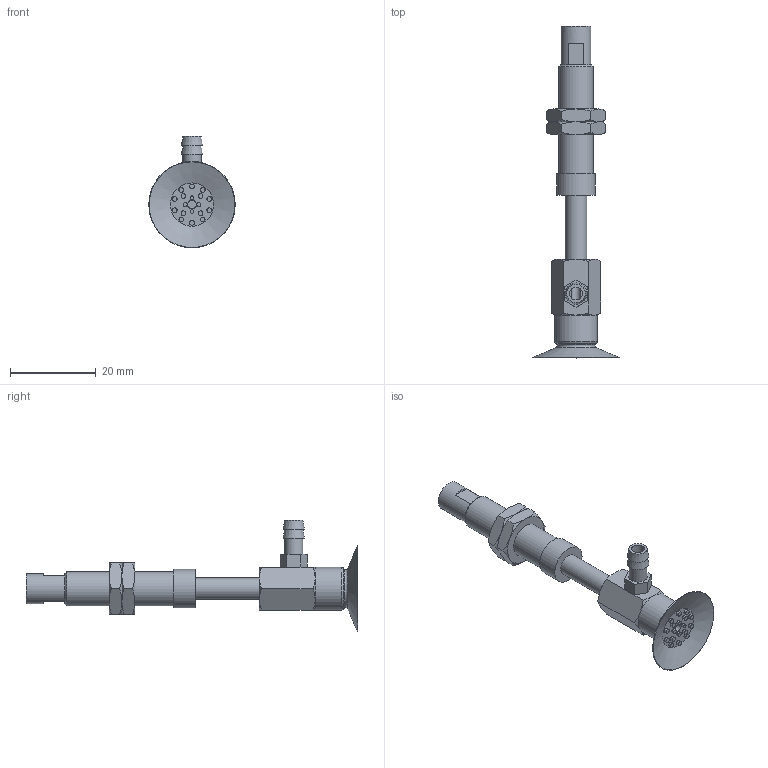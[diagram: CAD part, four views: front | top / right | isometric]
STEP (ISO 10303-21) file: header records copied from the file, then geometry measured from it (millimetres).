
FILE_DESCRIPTION(('STEP AP203'),'1');
FILE_NAME('-T.stp','2025-02-27T07:04:58',(' '),(' '),'Spatial InterOp 3D',' ',' ');
FILE_SCHEMA(('CONFIG_CONTROL_DESIGN'));
Length unit declared in the file: millimetre
Products named in the file (7): BNABPAYS-20A-15-※-T; NAPAYS-20A-15--M; NAPAYS-20A-15--F; Nut-10A-S; CONNECTOR-20A-15-PA; BPAG-20A-※_3D; T
Assembly tree (7 placements, depth 2):
  BNABPAYS-20A-15-※-T
    NAPAYS-20A-15--M
    NAPAYS-20A-15--F
    Nut-10A-S  x2
    CONNECTOR-20A-15-PA
    BPAG-20A-※_3D
    T
Bounding box: 20.19 x 77.5 x 26.09 mm (x, y, z)
Volume: 4434.4 mm3; surface area: 5785.5 mm2
Topology: 7 solids, 7 shells, 183 faces, 360 edges, 222 vertices
Faces by surface type: plane 81, cone 54, cylinder 38, torus 10
Full cylindrical faces by diameter (mm): 0.9 x4, 1.1 x14, 2 x2, 3 x1, 4 x2, 4.134 x2, 4.3 x1, 5 x4, 6 x2, 7 x1, 7.188 x2, 8 x1, 9 x1, 10 x1
Entity records: 4310 total; most frequent: CARTESIAN_POINT 944, DIRECTION 654, ORIENTED_EDGE 484, AXIS2_PLACEMENT_3D 298, EDGE_LOOP 264, EDGE_CURVE 242, FACE_OUTER_BOUND 207, VERTEX_POINT 186
